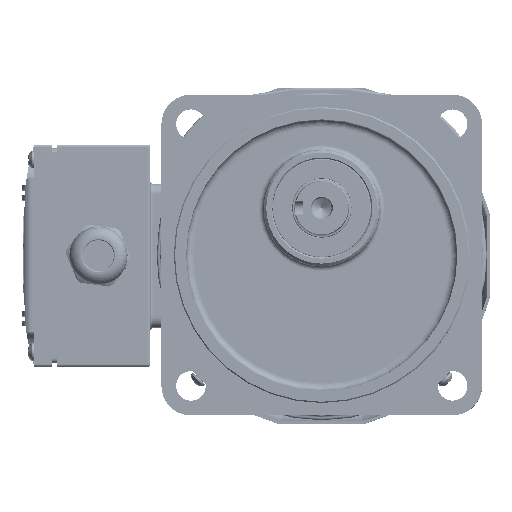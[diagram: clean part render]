
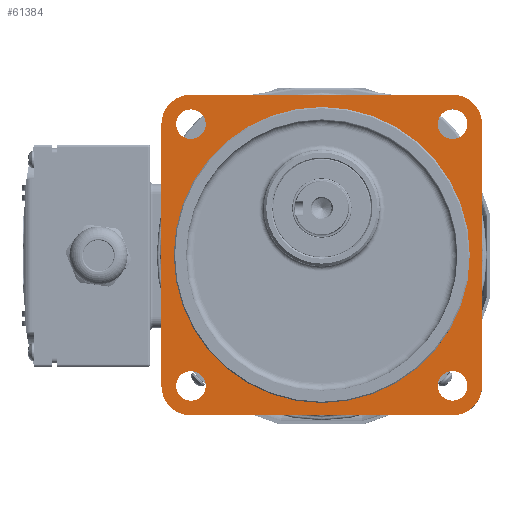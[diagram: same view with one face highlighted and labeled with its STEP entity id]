
A CAD part, top view. The second image highlights one B-rep face of the part: STEP entity #61384.
In plain terms, the highlighted planar face has unit normal (0, 0, 1).
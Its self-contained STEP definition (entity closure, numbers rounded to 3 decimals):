
#1439=FACE_BOUND('',#9684,.T.);
#1440=FACE_BOUND('',#9685,.T.);
#1441=FACE_BOUND('',#9686,.T.);
#1442=FACE_BOUND('',#9687,.T.);
#1443=FACE_BOUND('',#9688,.T.);
#2875=PLANE('',#67132);
#5872=FACE_OUTER_BOUND('',#9683,.T.);
#9683=EDGE_LOOP('',(#50121,#50122,#50123,#50124,#50125,#50126,#50127,#50128));
#9684=EDGE_LOOP('',(#50129));
#9685=EDGE_LOOP('',(#50130));
#9686=EDGE_LOOP('',(#50131));
#9687=EDGE_LOOP('',(#50132));
#9688=EDGE_LOOP('',(#50133));
#13367=CIRCLE('',#67129,60.);
#13369=CIRCLE('',#67133,12.);
#13370=CIRCLE('',#67134,12.);
#13371=CIRCLE('',#67135,12.);
#13372=CIRCLE('',#67136,12.);
#13373=CIRCLE('',#67137,6.);
#13374=CIRCLE('',#67138,6.);
#13375=CIRCLE('',#67139,6.);
#13376=CIRCLE('',#67140,6.);
#16613=LINE('',#131176,#19685);
#16614=LINE('',#131180,#19686);
#16615=LINE('',#131184,#19687);
#16616=LINE('',#131188,#19688);
#19685=VECTOR('',#80609,10.);
#19686=VECTOR('',#80612,10.);
#19687=VECTOR('',#80615,10.);
#19688=VECTOR('',#80618,10.);
#26665=VERTEX_POINT('',#131167);
#26667=VERTEX_POINT('',#131174);
#26668=VERTEX_POINT('',#131175);
#26669=VERTEX_POINT('',#131177);
#26670=VERTEX_POINT('',#131179);
#26671=VERTEX_POINT('',#131181);
#26672=VERTEX_POINT('',#131183);
#26673=VERTEX_POINT('',#131185);
#26674=VERTEX_POINT('',#131187);
#26675=VERTEX_POINT('',#131190);
#26676=VERTEX_POINT('',#131192);
#26677=VERTEX_POINT('',#131194);
#26678=VERTEX_POINT('',#131196);
#34662=EDGE_CURVE('',#26665,#26665,#13367,.T.);
#34665=EDGE_CURVE('',#26667,#26668,#16613,.T.);
#34666=EDGE_CURVE('',#26669,#26667,#13369,.T.);
#34667=EDGE_CURVE('',#26670,#26669,#16614,.T.);
#34668=EDGE_CURVE('',#26671,#26670,#13370,.T.);
#34669=EDGE_CURVE('',#26672,#26671,#16615,.T.);
#34670=EDGE_CURVE('',#26673,#26672,#13371,.T.);
#34671=EDGE_CURVE('',#26674,#26673,#16616,.T.);
#34672=EDGE_CURVE('',#26668,#26674,#13372,.T.);
#34673=EDGE_CURVE('',#26675,#26675,#13373,.T.);
#34674=EDGE_CURVE('',#26676,#26676,#13374,.T.);
#34675=EDGE_CURVE('',#26677,#26677,#13375,.T.);
#34676=EDGE_CURVE('',#26678,#26678,#13376,.T.);
#50121=ORIENTED_EDGE('',*,*,#34665,.F.);
#50122=ORIENTED_EDGE('',*,*,#34666,.F.);
#50123=ORIENTED_EDGE('',*,*,#34667,.F.);
#50124=ORIENTED_EDGE('',*,*,#34668,.F.);
#50125=ORIENTED_EDGE('',*,*,#34669,.F.);
#50126=ORIENTED_EDGE('',*,*,#34670,.F.);
#50127=ORIENTED_EDGE('',*,*,#34671,.F.);
#50128=ORIENTED_EDGE('',*,*,#34672,.F.);
#50129=ORIENTED_EDGE('',*,*,#34662,.F.);
#50130=ORIENTED_EDGE('',*,*,#34673,.F.);
#50131=ORIENTED_EDGE('',*,*,#34674,.F.);
#50132=ORIENTED_EDGE('',*,*,#34675,.F.);
#50133=ORIENTED_EDGE('',*,*,#34676,.F.);
#61384=ADVANCED_FACE('',(#5872,#1439,#1440,#1441,#1442,#1443),#2875,.T.);
#67129=AXIS2_PLACEMENT_3D('',#131168,#80600,#80601);
#67132=AXIS2_PLACEMENT_3D('',#131173,#80607,#80608);
#67133=AXIS2_PLACEMENT_3D('',#131178,#80610,#80611);
#67134=AXIS2_PLACEMENT_3D('',#131182,#80613,#80614);
#67135=AXIS2_PLACEMENT_3D('',#131186,#80616,#80617);
#67136=AXIS2_PLACEMENT_3D('',#131189,#80619,#80620);
#67137=AXIS2_PLACEMENT_3D('',#131191,#80621,#80622);
#67138=AXIS2_PLACEMENT_3D('',#131193,#80623,#80624);
#67139=AXIS2_PLACEMENT_3D('',#131195,#80625,#80626);
#67140=AXIS2_PLACEMENT_3D('',#131197,#80627,#80628);
#80600=DIRECTION('center_axis',(0.,0.,
1.));
#80601=DIRECTION('ref_axis',(-1.,0.,0.));
#80607=DIRECTION('center_axis',(0.,0.,
1.));
#80608=DIRECTION('ref_axis',(1.,0.,0.));
#80609=DIRECTION('',(0.,1.,0.));
#80610=DIRECTION('center_axis',(0.,0.,
-1.));
#80611=DIRECTION('ref_axis',(-1.,0.,0.));
#80612=DIRECTION('',(-1.,0.,0.));
#80613=DIRECTION('center_axis',(0.,0.,
-1.));
#80614=DIRECTION('ref_axis',(0.,-1.,0.));
#80615=DIRECTION('',(0.,-1.,0.));
#80616=DIRECTION('center_axis',(0.,0.,
-1.));
#80617=DIRECTION('ref_axis',(1.,0.,0.));
#80618=DIRECTION('',(1.,0.,0.));
#80619=DIRECTION('center_axis',(0.,0.,
-1.));
#80620=DIRECTION('ref_axis',(0.,1.,0.));
#80621=DIRECTION('center_axis',(0.,0.,
1.));
#80622=DIRECTION('ref_axis',(-1.,0.,0.));
#80623=DIRECTION('center_axis',(0.,0.,
1.));
#80624=DIRECTION('ref_axis',(-1.,0.,0.));
#80625=DIRECTION('center_axis',(0.,0.,
1.));
#80626=DIRECTION('ref_axis',(-1.,0.,0.));
#80627=DIRECTION('center_axis',(0.,0.,
1.));
#80628=DIRECTION('ref_axis',(-1.,0.,0.));
#131167=CARTESIAN_POINT('',(48.43,8.73,33.5));
#131168=CARTESIAN_POINT('Origin',(-11.57,8.73,33.5));
#131173=CARTESIAN_POINT('Origin',(-11.57,8.73,33.5));
#131174=CARTESIAN_POINT('',(-76.57,-44.27,33.5));
#131175=CARTESIAN_POINT('',(-76.57,61.73,33.5));
#131176=CARTESIAN_POINT('',(-76.57,-17.77,33.5));
#131177=CARTESIAN_POINT('',(-64.57,-56.27,33.5));
#131178=CARTESIAN_POINT('Origin',(-64.57,-44.27,33.5));
#131179=CARTESIAN_POINT('',(41.43,-56.27,33.5));
#131180=CARTESIAN_POINT('',(14.93,-56.27,33.5));
#131181=CARTESIAN_POINT('',(53.43,-44.27,33.5));
#131182=CARTESIAN_POINT('Origin',(41.43,-44.27,33.5));
#131183=CARTESIAN_POINT('',(53.43,61.73,33.5));
#131184=CARTESIAN_POINT('',(53.43,35.23,33.5));
#131185=CARTESIAN_POINT('',(41.43,73.73,33.5));
#131186=CARTESIAN_POINT('Origin',(41.43,61.73,33.5));
#131187=CARTESIAN_POINT('',(-64.57,73.73,33.5));
#131188=CARTESIAN_POINT('',(-38.07,73.73,33.5));
#131189=CARTESIAN_POINT('Origin',(-64.57,61.73,33.5));
#131190=CARTESIAN_POINT('',(-58.603,-44.303,33.5));
#131191=CARTESIAN_POINT('Origin',(-64.603,-44.303,33.5));
#131192=CARTESIAN_POINT('',(47.463,-44.303,33.5));
#131193=CARTESIAN_POINT('Origin',(41.463,-44.303,33.5));
#131194=CARTESIAN_POINT('',(47.463,61.763,33.5));
#131195=CARTESIAN_POINT('Origin',(41.463,61.763,33.5));
#131196=CARTESIAN_POINT('',(-58.603,61.763,33.5));
#131197=CARTESIAN_POINT('Origin',(-64.603,61.763,33.5));
